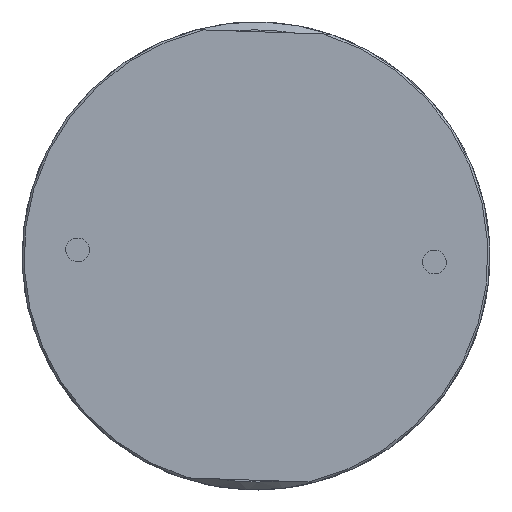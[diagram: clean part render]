
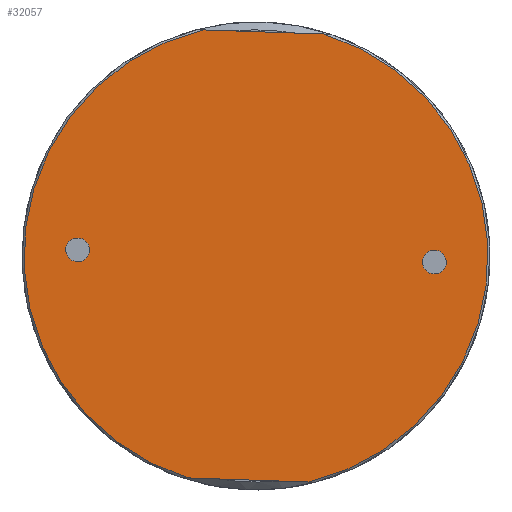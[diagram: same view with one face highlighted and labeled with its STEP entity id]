
A CAD part, front view. The second image highlights one B-rep face of the part: STEP entity #32057.
In plain terms, the highlighted planar face has unit normal (0, -1, 0) as drawn and (0, 0, 1) by its records, which use the part's own axes.
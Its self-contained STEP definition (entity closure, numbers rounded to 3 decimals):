
#6 = DIRECTION ( 'NONE',  ( 0., 0., 1. ) ) ;
#472 = ORIENTED_EDGE ( 'NONE', *, *, #4295, .F. ) ;
#722 = EDGE_LOOP ( 'NONE', ( #12570 ) ) ;
#1073 = DIRECTION ( 'NONE',  ( 0., 0., 1. ) ) ;
#1688 = ORIENTED_EDGE ( 'NONE', *, *, #6296, .T. ) ;
#1690 = VECTOR ( 'NONE', #30251, 1000. ) ;
#2380 = CARTESIAN_POINT ( 'NONE',  ( -15.166, -56.5, 55. ) ) ;
#2895 = FACE_BOUND ( 'NONE', #16445, .T. ) ;
#2925 = DIRECTION ( 'NONE',  ( 1., 0., 0. ) ) ;
#4295 = EDGE_CURVE ( 'NONE', #32296, #14700, #11958, .T. ) ;
#5749 = DIRECTION ( 'NONE',  ( 1., 0., 0. ) ) ;
#6296 = EDGE_CURVE ( 'NONE', #32296, #21201, #20648, .T. ) ;
#6420 = AXIS2_PLACEMENT_3D ( 'NONE', #30938, #25723, #5749 ) ;
#8061 = VERTEX_POINT ( 'NONE', #10743 ) ;
#8097 = FACE_BOUND ( 'NONE', #722, .T. ) ;
#8292 = CARTESIAN_POINT ( 'NONE',  ( 45., 0., 55. ) ) ;
#8920 = CARTESIAN_POINT ( 'NONE',  ( 15.166, -56.5, 55. ) ) ;
#9346 = CARTESIAN_POINT ( 'NONE',  ( 15.166, 56.5, 55. ) ) ;
#9563 = CARTESIAN_POINT ( 'NONE',  ( 0., 0., 55. ) ) ;
#9942 = VECTOR ( 'NONE', #18960, 1000. ) ;
#10285 = DIRECTION ( 'NONE',  ( 0., 0., 1. ) ) ;
#10743 = CARTESIAN_POINT ( 'NONE',  ( -42., 0., 55. ) ) ;
#10757 = ORIENTED_EDGE ( 'NONE', *, *, #26637, .F. ) ;
#10939 = CARTESIAN_POINT ( 'NONE',  ( 0., 0., 55. ) ) ;
#11958 = LINE ( 'NONE', #16822, #1690 ) ;
#12132 = CARTESIAN_POINT ( 'NONE',  ( -45., 0., 55. ) ) ;
#12570 = ORIENTED_EDGE ( 'NONE', *, *, #22481, .F. ) ;
#12941 = EDGE_LOOP ( 'NONE', ( #472, #1688, #13223, #25983 ) ) ;
#13223 = ORIENTED_EDGE ( 'NONE', *, *, #15075, .F. ) ;
#14700 = VERTEX_POINT ( 'NONE', #2380 ) ;
#15075 = EDGE_CURVE ( 'NONE', #22308, #21201, #27183, .T. ) ;
#15482 = DIRECTION ( 'NONE',  ( 1., 0., 0. ) ) ;
#16063 = AXIS2_PLACEMENT_3D ( 'NONE', #10939, #10285, #15482 ) ;
#16445 = EDGE_LOOP ( 'NONE', ( #10757 ) ) ;
#16822 = CARTESIAN_POINT ( 'NONE',  ( -55.114, -56.5, 55. ) ) ;
#18183 = CIRCLE ( 'NONE', #16063, 58.5 ) ;
#18292 = AXIS2_PLACEMENT_3D ( 'NONE', #8292, #1073, #2925 ) ;
#18960 = DIRECTION ( 'NONE',  ( 1., 0., 0. ) ) ;
#19297 = CARTESIAN_POINT ( 'NONE',  ( -32.875, 56.5, 55. ) ) ;
#19349 = DIRECTION ( 'NONE',  ( 0., 0., 1. ) ) ;
#19967 = DIRECTION ( 'NONE',  ( 1., 0., 0. ) ) ;
#20648 = CIRCLE ( 'NONE', #21709, 58.5 ) ;
#20675 = FACE_OUTER_BOUND ( 'NONE', #12941, .T. ) ;
#21201 = VERTEX_POINT ( 'NONE', #9346 ) ;
#21390 = AXIS2_PLACEMENT_3D ( 'NONE', #12132, #19349, #24717 ) ;
#21709 = AXIS2_PLACEMENT_3D ( 'NONE', #9563, #6, #19967 ) ;
#22308 = VERTEX_POINT ( 'NONE', #30168 ) ;
#22481 = EDGE_CURVE ( 'NONE', #25521, #25521, #24722, .T. ) ;
#23052 = PLANE ( 'NONE',  #6420 ) ;
#23337 = CARTESIAN_POINT ( 'NONE',  ( 48., 0., 55. ) ) ;
#24717 = DIRECTION ( 'NONE',  ( 1., 0., 0. ) ) ;
#24722 = CIRCLE ( 'NONE', #18292, 3. ) ;
#25521 = VERTEX_POINT ( 'NONE', #23337 ) ;
#25723 = DIRECTION ( 'NONE',  ( 0., 0., 1. ) ) ;
#25983 = ORIENTED_EDGE ( 'NONE', *, *, #32017, .T. ) ;
#26637 = EDGE_CURVE ( 'NONE', #8061, #8061, #31061, .T. ) ;
#27183 = LINE ( 'NONE', #19297, #9942 ) ;
#30168 = CARTESIAN_POINT ( 'NONE',  ( -15.166, 56.5, 55. ) ) ;
#30251 = DIRECTION ( 'NONE',  ( -1., 0., 0. ) ) ;
#30938 = CARTESIAN_POINT ( 'NONE',  ( 0., 0., 55. ) ) ;
#31061 = CIRCLE ( 'NONE', #21390, 3. ) ;
#32017 = EDGE_CURVE ( 'NONE', #22308, #14700, #18183, .T. ) ;
#32057 = ADVANCED_FACE ( 'NONE', ( #2895, #8097, #20675 ), #23052, .T. ) ;
#32296 = VERTEX_POINT ( 'NONE', #8920 ) ;
